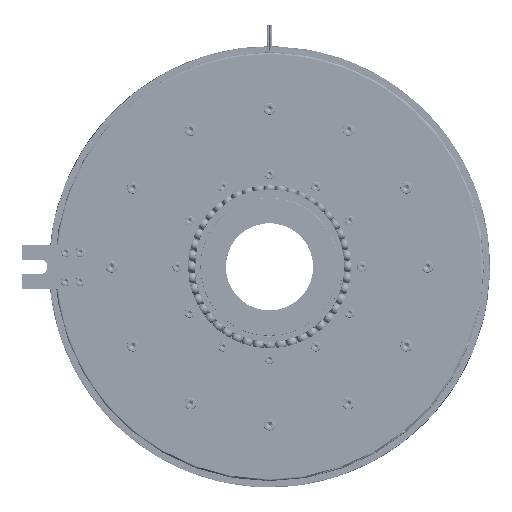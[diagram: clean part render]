
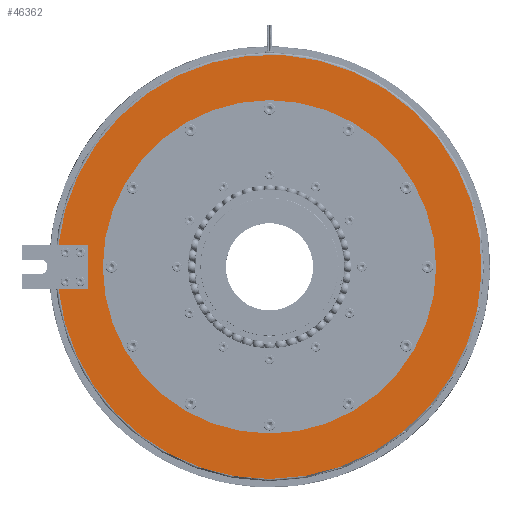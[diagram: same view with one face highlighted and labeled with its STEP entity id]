
A CAD part, left-side view. The second image highlights one B-rep face of the part: STEP entity #46362.
In plain terms, the highlighted planar face has unit normal (-1, 0, 0).
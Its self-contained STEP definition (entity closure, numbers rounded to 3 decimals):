
#775=FACE_BOUND('',#5103,.T.);
#1763=PLANE('',#48788);
#2745=FACE_OUTER_BOUND('',#5102,.T.);
#5102=EDGE_LOOP('',(#29231,#29232,#29233,#29234,#29235));
#5103=EDGE_LOOP('',(#29236,#29237));
#8964=CIRCLE('',#48789,291.5);
#8965=CIRCLE('',#48790,291.5);
#8966=CIRCLE('',#48791,229.);
#8967=CIRCLE('',#48792,229.);
#12444=LINE('',#68949,#14703);
#12447=LINE('',#68955,#14706);
#12450=LINE('',#68960,#14709);
#14703=VECTOR('',#54768,10.);
#14706=VECTOR('',#54773,10.);
#14709=VECTOR('',#54778,10.);
#16977=VERTEX_POINT('',#68908);
#16978=VERTEX_POINT('',#68910);
#16991=VERTEX_POINT('',#68948);
#16993=VERTEX_POINT('',#68954);
#16995=VERTEX_POINT('',#68963);
#16996=VERTEX_POINT('',#68966);
#16997=VERTEX_POINT('',#68967);
#21993=EDGE_CURVE('',#16991,#16978,#12444,.T.);
#21996=EDGE_CURVE('',#16993,#16991,#12447,.T.);
#21999=EDGE_CURVE('',#16977,#16993,#12450,.T.);
#22001=EDGE_CURVE('',#16995,#16978,#8964,.T.);
#22002=EDGE_CURVE('',#16977,#16995,#8965,.T.);
#22003=EDGE_CURVE('',#16996,#16997,#8966,.T.);
#22004=EDGE_CURVE('',#16997,#16996,#8967,.T.);
#29231=ORIENTED_EDGE('',*,*,#21999,.T.);
#29232=ORIENTED_EDGE('',*,*,#21996,.T.);
#29233=ORIENTED_EDGE('',*,*,#21993,.T.);
#29234=ORIENTED_EDGE('',*,*,#22001,.F.);
#29235=ORIENTED_EDGE('',*,*,#22002,.F.);
#29236=ORIENTED_EDGE('',*,*,#22003,.T.);
#29237=ORIENTED_EDGE('',*,*,#22004,.T.);
#46362=ADVANCED_FACE('',(#2745,#775),#1763,.T.);
#48788=AXIS2_PLACEMENT_3D('',#68962,#54780,#54781);
#48789=AXIS2_PLACEMENT_3D('',#68964,#54782,#54783);
#48790=AXIS2_PLACEMENT_3D('',#68965,#54784,#54785);
#48791=AXIS2_PLACEMENT_3D('',#68968,#54786,#54787);
#48792=AXIS2_PLACEMENT_3D('',#68969,#54788,#54789);
#54768=DIRECTION('',(0.,1.,0.));
#54773=DIRECTION('',(0.,0.,-1.));
#54778=DIRECTION('',(0.,-1.,0.));
#54780=DIRECTION('center_axis',(-1.,0.,0.));
#54781=DIRECTION('ref_axis',(0.,0.,
1.));
#54782=DIRECTION('center_axis',(1.,0.,0.));
#54783=DIRECTION('ref_axis',(0.,-1.,0.));
#54784=DIRECTION('center_axis',(1.,0.,0.));
#54785=DIRECTION('ref_axis',(0.,-1.,0.));
#54786=DIRECTION('center_axis',(1.,0.,0.));
#54787=DIRECTION('ref_axis',(0.,1.,0.));
#54788=DIRECTION('center_axis',(1.,0.,0.));
#54789=DIRECTION('ref_axis',(0.,1.,0.));
#68908=CARTESIAN_POINT('',(-145.5,289.952,30.));
#68910=CARTESIAN_POINT('',(-145.5,289.952,-30.));
#68948=CARTESIAN_POINT('',(-145.5,250.,-30.));
#68949=CARTESIAN_POINT('',(-145.5,293.625,-30.));
#68954=CARTESIAN_POINT('',(-145.5,250.,30.));
#68955=CARTESIAN_POINT('',(-145.5,250.,-15.));
#68960=CARTESIAN_POINT('',(-145.5,248.625,30.));
#68962=CARTESIAN_POINT('Origin',(-145.5,247.25,0.));
#68963=CARTESIAN_POINT('',(-145.5,0.,-291.5));
#68964=CARTESIAN_POINT('Origin',(-145.5,0.,0.));
#68965=CARTESIAN_POINT('Origin',(-145.5,0.,0.));
#68966=CARTESIAN_POINT('',(-145.5,229.,0.));
#68967=CARTESIAN_POINT('',(-145.5,-229.,0.));
#68968=CARTESIAN_POINT('Origin',(-145.5,0.,0.));
#68969=CARTESIAN_POINT('Origin',(-145.5,0.,0.));
